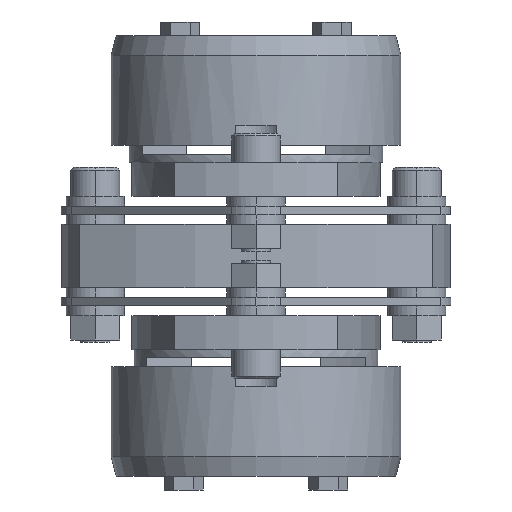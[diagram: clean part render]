
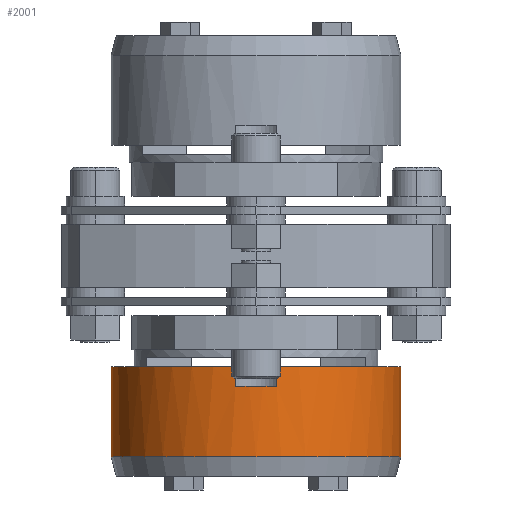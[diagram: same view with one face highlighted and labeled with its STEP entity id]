
A CAD part, left-side view. The second image highlights one B-rep face of the part: STEP entity #2001.
In plain terms, the highlighted cylindrical face has radius 29.75 mm (diameter 59.5 mm), a partial arc.
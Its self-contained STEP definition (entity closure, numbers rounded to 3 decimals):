
#1825=CARTESIAN_POINT('',(0.,29.75,-41.25));
#1826=VERTEX_POINT('',#1825);
#1842=CARTESIAN_POINT('',(0.,-29.75,-41.25));
#1843=VERTEX_POINT('',#1842);
#1850=CARTESIAN_POINT('',(0.,0.,-41.25));
#1851=DIRECTION('',(0.0,0.0,-1.0));
#1852=DIRECTION('',(0.,1.0,0.0));
#1853=AXIS2_PLACEMENT_3D('',#1850,#1851,#1852);
#1854=CIRCLE('',#1853,29.75);
#1855=EDGE_CURVE('',#1843,#1826,#1854,.T.);
#1936=CARTESIAN_POINT('',(0.,0.,-22.75));
#1937=DIRECTION('',(0.0,0.0,-1.0));
#1938=DIRECTION('',(0.,-1.0,0.0));
#1939=AXIS2_PLACEMENT_3D('',#1936,#1937,#1938);
#1940=CYLINDRICAL_SURFACE('',#1939,29.75);
#1941=CARTESIAN_POINT('',(0.,-29.75,-22.75));
#1942=VERTEX_POINT('',#1941);
#1943=CARTESIAN_POINT('',(0.,-29.75,-22.75));
#1944=DIRECTION('',(0.0,0.0,-1.0));
#1945=VECTOR('',#1944,18.5);
#1946=LINE('',#1943,#1945);
#1947=EDGE_CURVE('',#1942,#1843,#1946,.T.);
#1948=ORIENTED_EDGE('',*,*,#1947,.F.);
#1949=CARTESIAN_POINT('',(-29.452,-4.202,-22.75));
#1950=VERTEX_POINT('',#1949);
#1951=CARTESIAN_POINT('',(0.,0.,-22.75));
#1952=DIRECTION('',(0.0,0.0,-1.0));
#1953=DIRECTION('',(0.,-1.0,0.0));
#1954=AXIS2_PLACEMENT_3D('',#1951,#1952,#1953);
#1955=CIRCLE('',#1954,29.75);
#1956=EDGE_CURVE('',#1942,#1950,#1955,.T.);
#1957=ORIENTED_EDGE('',*,*,#1956,.T.);
#1958=CARTESIAN_POINT('',(-29.452,-4.202,-26.75));
#1959=VERTEX_POINT('',#1958);
#1960=CARTESIAN_POINT('',(-29.452,-4.202,-22.75));
#1961=DIRECTION('',(0.0,0.0,-1.0));
#1962=VECTOR('',#1961,4.0);
#1963=LINE('',#1960,#1962);
#1964=EDGE_CURVE('',#1950,#1959,#1963,.T.);
#1965=ORIENTED_EDGE('',*,*,#1964,.T.);
#1966=CARTESIAN_POINT('',(-29.452,4.202,-26.75));
#1967=VERTEX_POINT('',#1966);
#1968=CARTESIAN_POINT('',(0.,0.,-26.75));
#1969=DIRECTION('',(0.0,0.0,-1.0));
#1970=DIRECTION('',(0.,-1.0,0.0));
#1971=AXIS2_PLACEMENT_3D('',#1968,#1969,#1970);
#1972=CIRCLE('',#1971,29.75);
#1973=EDGE_CURVE('',#1959,#1967,#1972,.T.);
#1974=ORIENTED_EDGE('',*,*,#1973,.T.);
#1975=CARTESIAN_POINT('',(-29.452,4.202,-22.75));
#1976=VERTEX_POINT('',#1975);
#1977=CARTESIAN_POINT('',(-29.452,4.202,-26.75));
#1978=DIRECTION('',(0.0,0.0,1.0));
#1979=VECTOR('',#1978,4.0);
#1980=LINE('',#1977,#1979);
#1981=EDGE_CURVE('',#1967,#1976,#1980,.T.);
#1982=ORIENTED_EDGE('',*,*,#1981,.T.);
#1983=CARTESIAN_POINT('',(0.,29.75,-22.75));
#1984=VERTEX_POINT('',#1983);
#1985=CARTESIAN_POINT('',(0.,0.,-22.75));
#1986=DIRECTION('',(0.0,0.0,-1.0));
#1987=DIRECTION('',(0.,-1.0,0.0));
#1988=AXIS2_PLACEMENT_3D('',#1985,#1986,#1987);
#1989=CIRCLE('',#1988,29.75);
#1990=EDGE_CURVE('',#1976,#1984,#1989,.T.);
#1991=ORIENTED_EDGE('',*,*,#1990,.T.);
#1992=CARTESIAN_POINT('',(0.,29.75,-41.25));
#1993=DIRECTION('',(0.0,0.0,1.0));
#1994=VECTOR('',#1993,18.5);
#1995=LINE('',#1992,#1994);
#1996=EDGE_CURVE('',#1826,#1984,#1995,.T.);
#1997=ORIENTED_EDGE('',*,*,#1996,.F.);
#1998=ORIENTED_EDGE('',*,*,#1855,.F.);
#1999=EDGE_LOOP('',(#1948,#1957,#1965,#1974,#1982,#1991,#1997,#1998));
#2000=FACE_OUTER_BOUND('',#1999,.T.);
#2001=ADVANCED_FACE('',(#2000),#1940,.T.);
